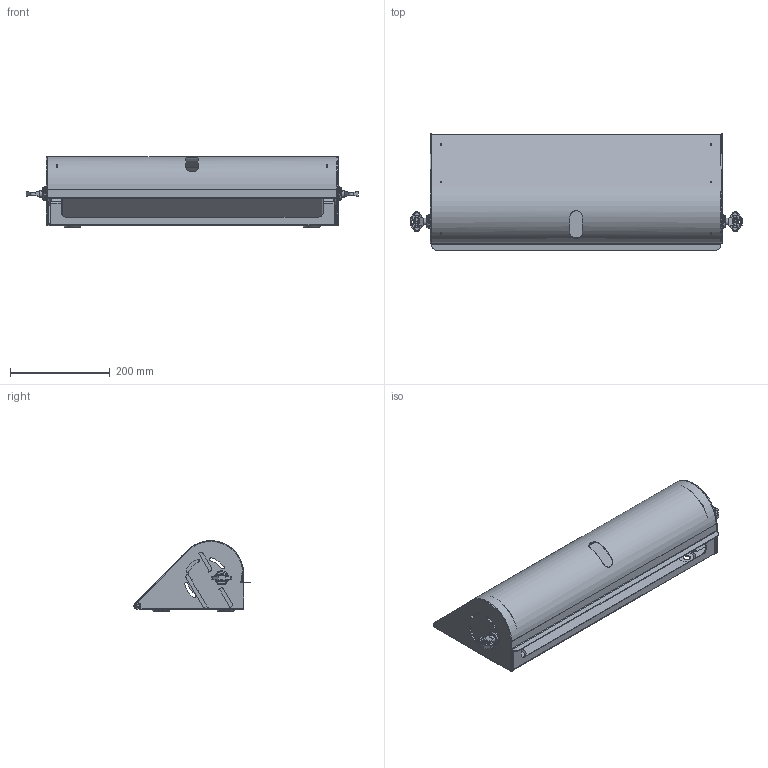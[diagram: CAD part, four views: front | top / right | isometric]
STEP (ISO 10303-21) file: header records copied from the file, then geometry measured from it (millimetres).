
FILE_DESCRIPTION((''),'2;1');
FILE_NAME('X:\Udviklingsprojekter\Puslebord\Papirdispenser til puslebord DD-300113-xxx\Public\655 DAN DRYER DESIGN.stp','2014-11-18T13:40:58',('Dan Dryer'),(''),'Autodesk Inventor 2012','Autodesk Inventor 2012','');
FILE_SCHEMA(('AUTOMOTIVE_DESIGN { 1 0 10303 214 1 1 1 1 }'));
Length unit declared in the file: millimetre
Products named in the file (22): DD-300113-400 pub; DD-300113-410; DD-300113-411; DD-300113-414; DD-300113-412; DD-300113-413; DD-300113-450; DD-300113-451; DD-300113-452; DD-300113-453; DD-300113-454; DD-300113-455; 1000-U214-01; 1000-U214-01-F; 1000-U214-01-C; 1000-U214-01-B; 1000-U214-01-E; 1000-U214-01-H; 1000-U214-01-A; 1000-U214-01-D; 1000-U214-01-G; 28202
Assembly tree (26 placements, depth 3):
  DD-300113-400 pub
    DD-300113-410
      DD-300113-411
      DD-300113-414  x2
      DD-300113-412
      DD-300113-413
    DD-300113-450
      DD-300113-451
      DD-300113-452  x2
      DD-300113-453
      DD-300113-454
      DD-300113-455  x2
    1000-U214-01  x2
      1000-U214-01-F
      1000-U214-01-C
      1000-U214-01-B
      1000-U214-01-E
      1000-U214-01-H
      1000-U214-01-A
      1000-U214-01-D
      1000-U214-01-G
    28202  x2
Bounding box: 665.8 x 233.15 x 141.8 mm (x, y, z)
Volume: 720850.7 mm3; surface area: 843381.3 mm2
Topology: 30 solids, 30 shells, 1611 faces, 4041 edges, 2558 vertices
Faces by surface type: plane 988, cylinder 492, bspline 53, torus 34, cone 32, sphere 8, revolution 4
Full cylindrical faces by diameter (mm): 2.6 x12, 4.1 x4, 5 x2, 5.2 x2, 5.5 x2, 6 x4, 6.2 x2, 9.9 x2, 10 x6, 10.1 x2, 11 x2, 13 x2, 13.5 x4, 15.5 x2, 15.65 x2, 16 x2, 19.5 x2, 28 x2
Entity records: 36134 total; most frequent: CARTESIAN_POINT 10569, DIRECTION 5256, ORIENTED_EDGE 5016, EDGE_CURVE 2508, AXIS2_PLACEMENT_3D 1793, VECTOR 1668, LINE 1668, VERTEX_POINT 1607
